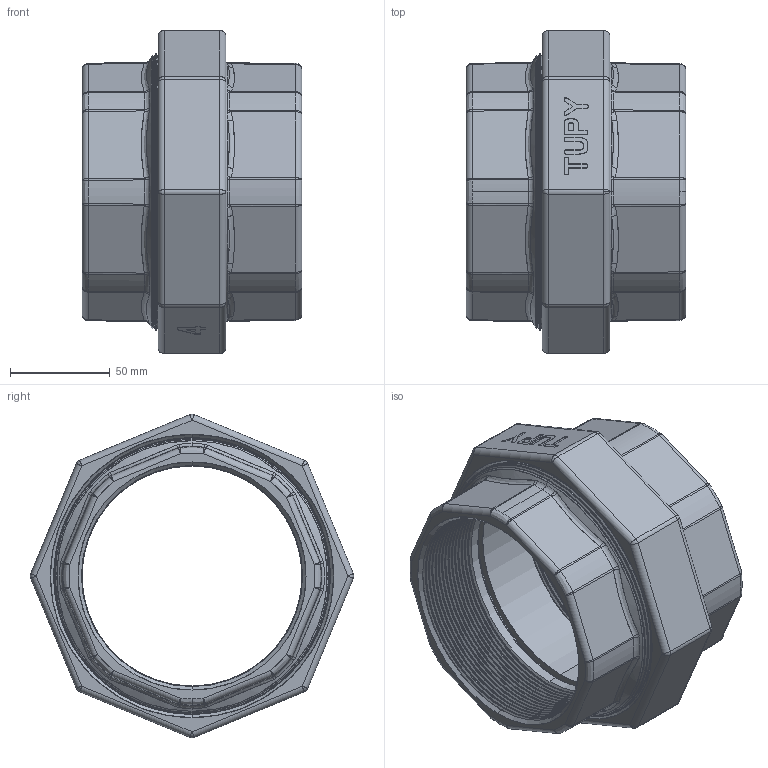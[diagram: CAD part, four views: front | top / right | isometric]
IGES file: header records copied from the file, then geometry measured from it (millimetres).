
Start section: SolidWorks IGES file using analytic representation for surfaces
Global section: file name: C:\Users\Joel Rosa\Desktop\Tubulação\12-62-X\12-62-014.IGS; native system: SolidWorks 2011; preprocessor: SolidWorks 2011; author: Joel Rosa; date: 130721.124714; units: millimetre
Bounding box: 110 x 161.86 x 161.86 mm (x, y, z)
Surface area: 174802 mm2 (no closed solid volume)
Topology: 0 solids, 0 shells, 867 faces, 6176 edges, 6170 vertices
Faces by surface type: bspline 528, revolution 339
